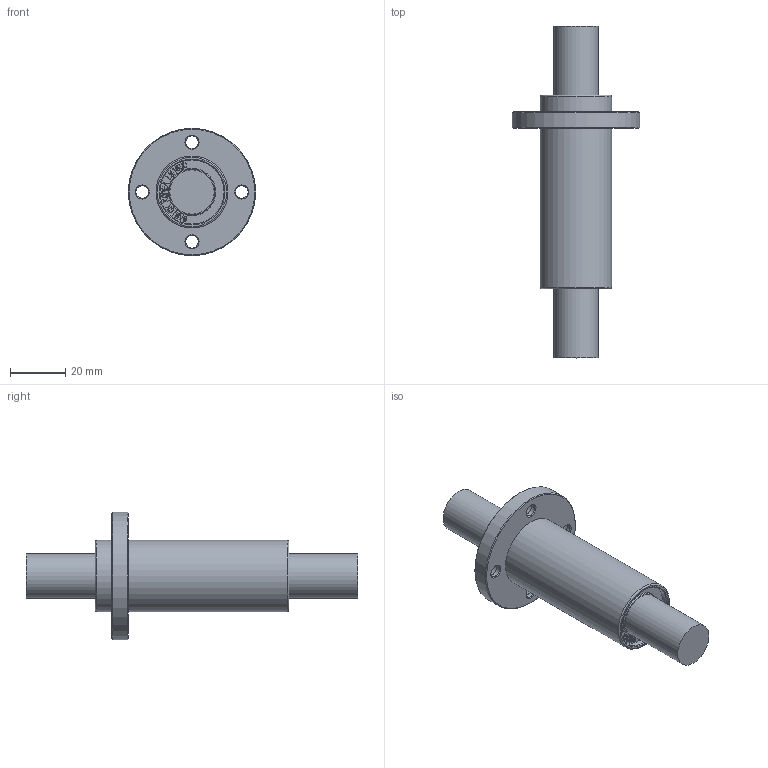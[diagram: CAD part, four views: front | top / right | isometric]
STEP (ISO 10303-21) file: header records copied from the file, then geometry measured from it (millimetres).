
FILE_DESCRIPTION(/* description */ (''),/* implementation_level */ '2;1');
FILE_NAME(/* name */ 'W:\(01) 2024년 홈페이지 CAD파일 최신화\LMEFP_L\IPT\LMEF16LUU.stp',/* time_stamp */ '2025-01-25T11:49:59+09:00',/* author */ ('서우현'),/* organization */ (''),/* preprocessor_version */ 'ST-DEVELOPER v17.2',/* originating_system */ 'Autodesk Inventor 2019',/* authorisation */ '');
FILE_SCHEMA (('AUTOMOTIVE_DESIGN { 1 0 10303 214 3 1 1 }'));
Length unit declared in the file: millimetre
Products named in the file (1): LM5
Bounding box: 46 x 120 x 46 mm (x, y, z)
Volume: 52015.7 mm3; surface area: 12772.8 mm2
Topology: 1 solids, 1 shells, 845 faces, 2379 edges, 1592 vertices
Faces by surface type: bspline 588, plane 226, cylinder 15, cone 14, torus 2
Full cylindrical faces by diameter (mm): 4.5 x4, 8 x4, 16 x2, 23.2 x2, 26 x2, 46 x1
Entity records: 29280 total; most frequent: CARTESIAN_POINT 10953, ORIENTED_EDGE 4758, EDGE_CURVE 2379, DIRECTION 1801, VERTEX_POINT 1592, B_SPLINE_CURVE_WITH_KNOTS 1176, LINE 1121, VECTOR 1121
